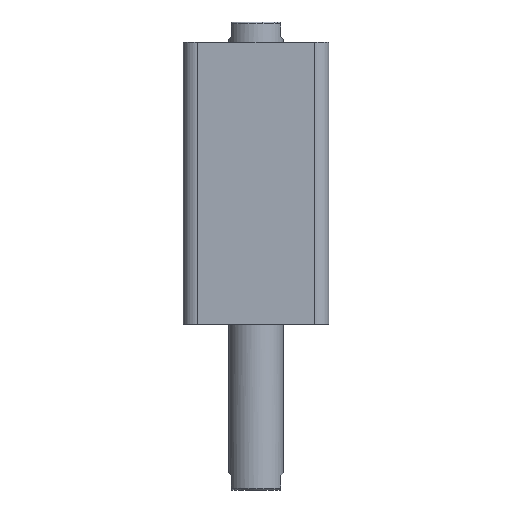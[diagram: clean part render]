
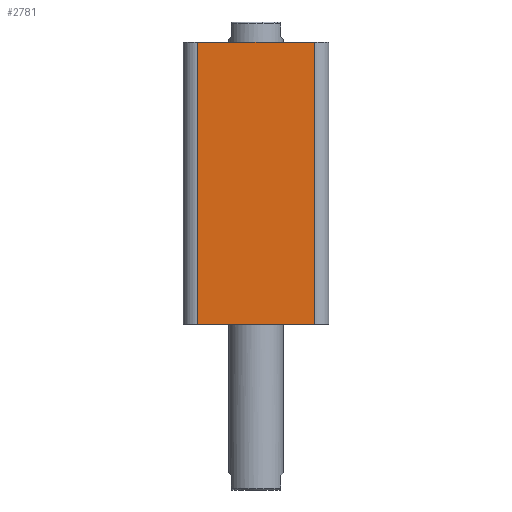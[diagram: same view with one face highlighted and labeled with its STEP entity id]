
A CAD part, front view. The second image highlights one B-rep face of the part: STEP entity #2781.
In plain terms, the highlighted planar face has unit normal (0, -1, 0).
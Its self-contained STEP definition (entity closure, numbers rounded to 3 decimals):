
#28 = CARTESIAN_POINT ( 'NONE',  ( 32., -40., 0. ) ) ;
#117 = VERTEX_POINT ( 'NONE', #28 ) ;
#122 = VERTEX_POINT ( 'NONE', #1142 ) ;
#123 = VERTEX_POINT ( 'NONE', #1136 ) ;
#126 = VERTEX_POINT ( 'NONE', #1154 ) ;
#211 = CARTESIAN_POINT ( 'NONE',  ( -32., -40., 155. ) ) ;
#212 = DIRECTION ( 'NONE',  ( 0., 0., -1. ) ) ;
#572 = CARTESIAN_POINT ( 'NONE',  ( -40., -40., 155. ) ) ;
#574 = PLANE ( 'NONE',  #2330 ) ;
#576 = DIRECTION ( 'NONE',  ( 0., 1., 0. ) ) ;
#577 = DIRECTION ( 'NONE',  ( 0., 0., 1. ) ) ;
#727 = LINE ( 'NONE', #211, #730 ) ;
#730 = VECTOR ( 'NONE', #212, 1000. ) ;
#924 = FACE_OUTER_BOUND ( 'NONE', #2709, .T. ) ;
#1136 = CARTESIAN_POINT ( 'NONE',  ( -32., -40., 155. ) ) ;
#1142 = CARTESIAN_POINT ( 'NONE',  ( 32., -40., 155. ) ) ;
#1154 = CARTESIAN_POINT ( 'NONE',  ( -32., -40., 0. ) ) ;
#1184 = CARTESIAN_POINT ( 'NONE',  ( -40., -40., 155. ) ) ;
#1185 = DIRECTION ( 'NONE',  ( 1., 0., 0. ) ) ;
#1242 = CARTESIAN_POINT ( 'NONE',  ( -40., -40., 0. ) ) ;
#1243 = DIRECTION ( 'NONE',  ( 1., 0., 0. ) ) ;
#1251 = DIRECTION ( 'NONE',  ( 0., 0., 1. ) ) ;
#1301 = CARTESIAN_POINT ( 'NONE',  ( 32., -40., 155. ) ) ;
#1829 = LINE ( 'NONE', #1184, #1831 ) ;
#1831 = VECTOR ( 'NONE', #1185, 1000. ) ;
#1854 = LINE ( 'NONE', #1242, #1856 ) ;
#1856 = VECTOR ( 'NONE', #1243, 1000. ) ;
#1872 = LINE ( 'NONE', #1301, #1875 ) ;
#1875 = VECTOR ( 'NONE', #1251, 1000. ) ;
#1933 = EDGE_CURVE ( 'NONE', #123, #122, #1829, .T. ) ;
#1954 = EDGE_CURVE ( 'NONE', #126, #117, #1854, .T. ) ;
#1972 = EDGE_CURVE ( 'NONE', #117, #122, #1872, .T. ) ;
#2090 = EDGE_CURVE ( 'NONE', #123, #126, #727, .T. ) ;
#2330 = AXIS2_PLACEMENT_3D ( 'NONE', #572, #576, #577 ) ;
#2676 = ORIENTED_EDGE ( 'NONE', *, *, #1933, .F. ) ;
#2677 = ORIENTED_EDGE ( 'NONE', *, *, #2090, .T. ) ;
#2678 = ORIENTED_EDGE ( 'NONE', *, *, #1954, .T. ) ;
#2679 = ORIENTED_EDGE ( 'NONE', *, *, #1972, .T. ) ;
#2709 = EDGE_LOOP ( 'NONE', ( #2676, #2677, #2678, #2679 ) ) ;
#2781 = ADVANCED_FACE ( 'NONE', ( #924 ), #574, .F. ) ;
